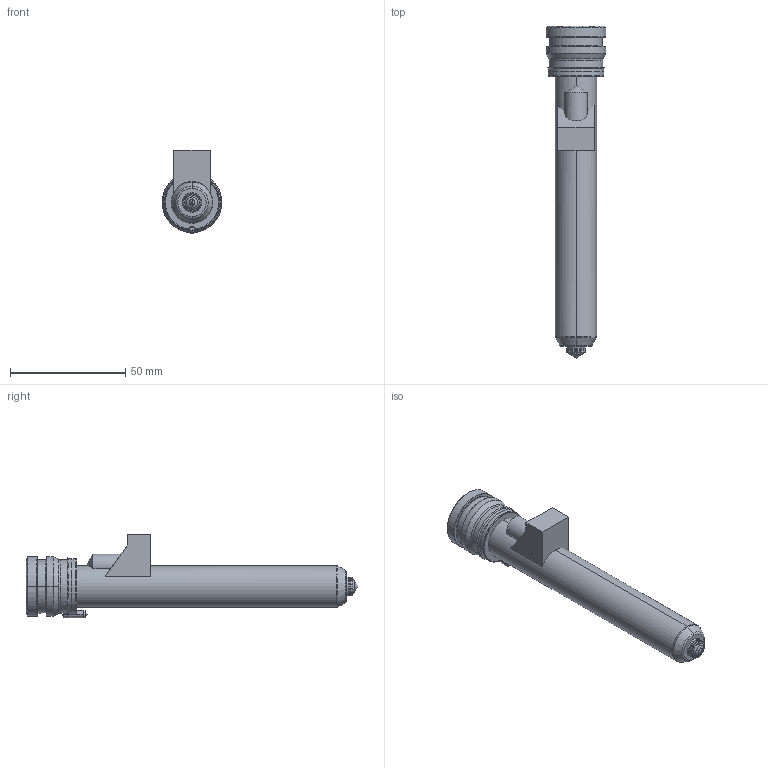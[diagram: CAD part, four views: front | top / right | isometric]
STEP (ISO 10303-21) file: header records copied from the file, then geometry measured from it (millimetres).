
FILE_DESCRIPTION((''),'2;1');
FILE_NAME('TH18126-M-1GLT-PK-JG','2023-12-14T',('umhib'),('Thermoplay S.p.A.'),'PRO/ENGINEER BY PARAMETRIC TECHNOLOGY CORPORATION, 2017170','PRO/ENGINEER BY PARAMETRIC TECHNOLOGY CORPORATION, 2017170','');
FILE_SCHEMA(('CONFIG_CONTROL_DESIGN'));
Length unit declared in the file: millimetre
Products named in the file (1): TH18126-M-1GLT-PK-JG
Bounding box: 26 x 144 x 36.1 mm (x, y, z)
Volume: 29681.3 mm3; surface area: 22788.7 mm2
Topology: 1 solids, 2 shells, 413 faces, 1052 edges, 647 vertices
Faces by surface type: cylinder 160, plane 92, cone 64, torus 64, bspline 22, sphere 9, extrusion 2
Entity records: 16931 total; most frequent: CARTESIAN_POINT 4933, DIRECTION 2166, ORIENTED_EDGE 2078, EDGE_CURVE 1041, AXIS2_PLACEMENT_3D 881, VERTEX_POINT 647, CIRCLE 491, EDGE_LOOP 441
